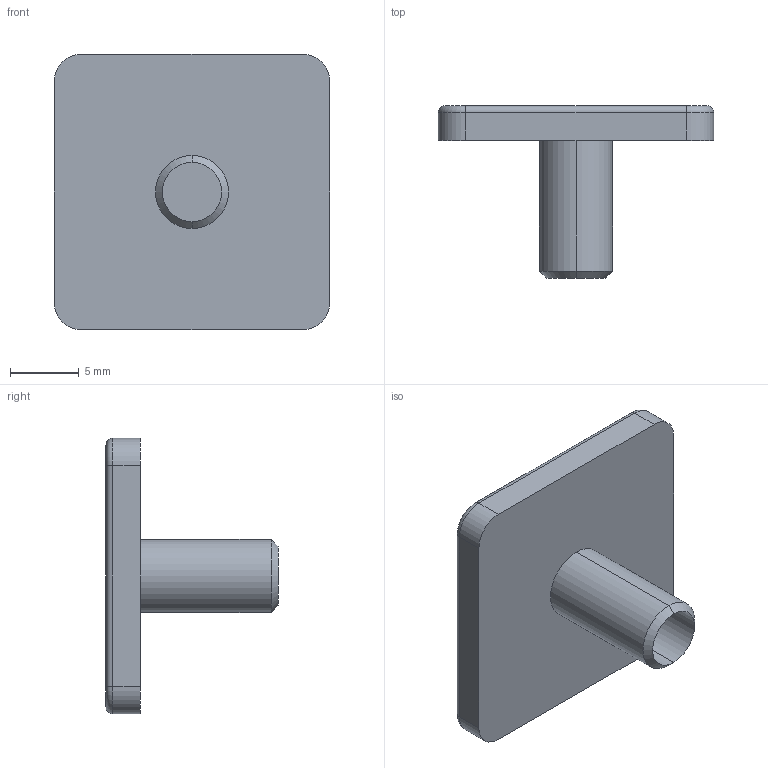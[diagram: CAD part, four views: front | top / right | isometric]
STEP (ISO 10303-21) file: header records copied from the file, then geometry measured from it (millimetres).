
FILE_DESCRIPTION (( 'STEP AP214' ), '1' );
FILE_NAME ('2020-cover.STEP', '2018-12-23T07:24:30', ( '' ), ( '' ), 'SwSTEP 2.0', 'SolidWorks 2018', '' );
FILE_SCHEMA (( 'AUTOMOTIVE_DESIGN' ));
Length unit declared in the file: millimetre
Products named in the file (1): 2020-cover
Bounding box: 20 x 12.5 x 20 mm (x, y, z)
Volume: 1060.8 mm3; surface area: 1264.4 mm2
Topology: 1 solids, 1 shells, 25 faces, 54 edges, 32 vertices
Faces by surface type: cylinder 12, plane 7, torus 4, cone 2
Entity records: 714 total; most frequent: DIRECTION 134, CARTESIAN_POINT 112, ORIENTED_EDGE 108, EDGE_CURVE 54, AXIS2_PLACEMENT_3D 54, VERTEX_POINT 32, CIRCLE 28, LINE 26
